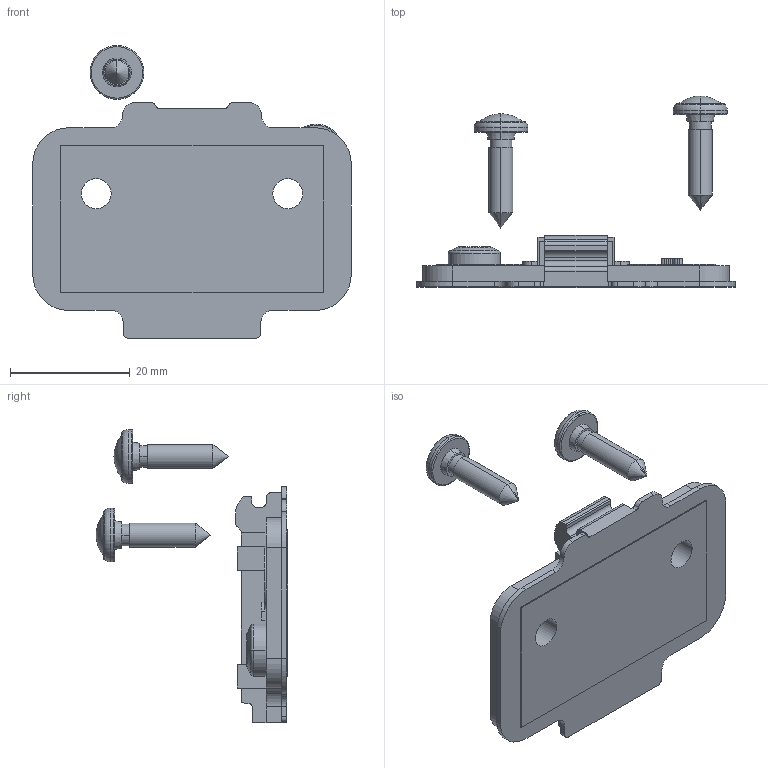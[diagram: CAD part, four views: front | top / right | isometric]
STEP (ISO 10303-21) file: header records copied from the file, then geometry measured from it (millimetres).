
FILE_DESCRIPTION (( 'STEP AP203' ), '1' );
FILE_NAME ('82T00TQ.STEP', '2025-07-21T01:17:02', ( '微软用户' ), ( '微软中国' ), 'SwSTEP 2.0', 'SolidWorks 2021', '' );
FILE_SCHEMA (( 'CONFIG_CONTROL_DESIGN' ));
Length unit declared in the file: millimetre
Products named in the file (1): 82T00TQ
Bounding box: 53.2 x 32.03 x 48.95 mm (x, y, z)
Volume: 8514.2 mm3; surface area: 5531.2 mm2
Topology: 3 solids, 6 shells, 222 faces, 602 edges, 393 vertices
Faces by surface type: plane 108, cylinder 69, torus 16, cone 14, bspline 13, sphere 2
Entity records: 7234 total; most frequent: CARTESIAN_POINT 1570, ORIENTED_EDGE 1172, DIRECTION 1166, EDGE_CURVE 586, AXIS2_PLACEMENT_3D 401, VERTEX_POINT 391, LINE 364, VECTOR 364
